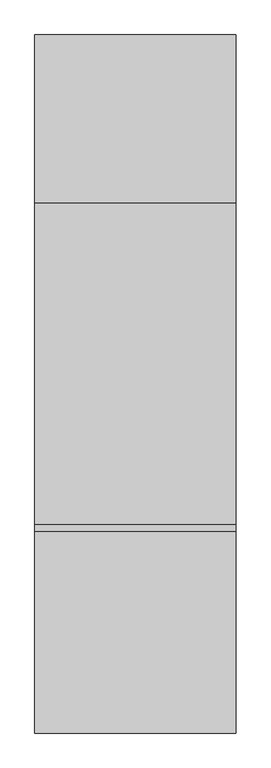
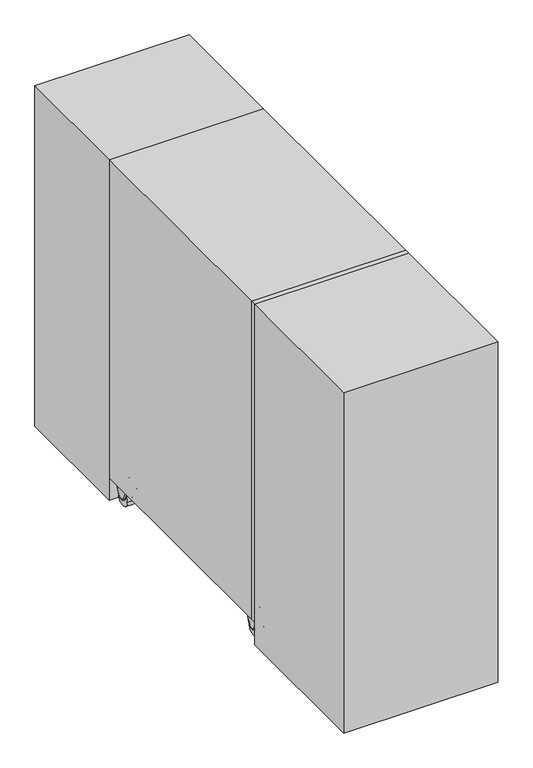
"""IFC4 building model written with IfcOpenShell, lengths in millimetres: proxy geometry, Трехфазный ИБП_ЛЕГИОН_СайберЭлектро : ЛЕГИОН-3Ф-120К."""

from ifc_helpers import new_model, si_unit, point, frame, origin, origin_with_axes, place, context, project, spatial, polyline, circle_curve, ellipse_curve, trimmed, outline, extrude, source, transform, mapped, element, save
from ifc_brep_helpers import plane_surface, cylinder_surface, revolved_surface, advanced_brep


def electrical_equipment_faf3a0b3(model_context):
    return source(origin(), model_context, "Body", "SolidModel", [
        advanced_brep(
        [(282.5584286, -22.026834, 73.0926887), (282.5584286, -31.2318826, 87.0), (282.5584286, -68.7681174, 87.0), (282.5584286, -77.973166, 73.0926887), (282.5584286, -63.8075728, 39.7206426), (282.5584286, -36.1924272, 39.7206426), (237.4415714, -31.2318826, 87.0), (237.4415714, -22.026834, 73.0926887), (237.4415714, -36.1924272, 39.7206426), (237.4415714, -63.8075728, 39.7206426), (237.4415714, -77.973166, 73.0926887), (237.4415714, -68.7681174, 87.0), (277.5584286, -31.2318826, 92.0), (242.4415641, -31.2318826, 92.0), (242.4415714, -68.7681174, 92.0), (277.5584286, -68.7681174, 92.0), (242.4415714, -82.5756902, 71.1390331), (277.5584286, -82.5756902, 71.1390331), (275.0, -73.1912444, 49.0306642), (275.0, -68.4100971, 37.7669869), (277.5584286, -68.4100971, 37.7669869), (242.4415714, -68.4100971, 37.7669869), (245.0, -68.4100971, 37.7669869), (245.0, -73.1912444, 49.0306642), (275.0, -31.5899029, 37.7669869), (277.5584286, -31.5899029, 37.7669869), (245.0, -31.5899029, 37.7669869), (242.4415714, -31.5899029, 37.7669869), (275.0, -26.8087556, 49.0306642), (245.0, -26.8087556, 49.0306642), (242.4415714, -17.4243098, 71.1390331), (277.5584286, -17.4243098, 71.1390331), (275.0, -80.0, 30.0), (275.0, -20.0, 30.0), (245.0, -20.0, 30.0), (245.0, -80.0, 30.0)],
        [
            (0, 1, circle_curve(frame((282.5584286, -31.2318826, 77.0), z_axis=(1.0, 0.0, 0.0), x_axis=(0.0, 0.0, 1.0)), 10.0)),
            (1, 2),
            (2, 3, circle_curve(frame((282.5584286, -68.7681174, 77.0), z_axis=(1.0, 0.0, 0.0), x_axis=(0.0, -0.9205048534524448, -0.3907311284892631)), 10.0)),
            (3, 4),
            (4, 5, circle_curve(frame((282.5584286, -50.0, 45.5816095), z_axis=(1.0, 0.0, 0.0), x_axis=(0.0, 0.9205048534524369, -0.3907311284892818)), 15.0)),
            (5, 0),
            (6, 7, circle_curve(frame((237.4415714, -31.2318826, 77.0), z_axis=(-1.0, 0.0, 0.0), x_axis=(0.0, 0.0, 1.0)), 10.0)),
            (7, 8),
            (8, 9, circle_curve(frame((237.4415714, -50.0, 45.5816095), z_axis=(-1.0, 0.0, 0.0), x_axis=(0.0, 0.9205048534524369, -0.3907311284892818)), 15.0)),
            (9, 10),
            (10, 11, circle_curve(frame((237.4415714, -68.7681174, 77.0), z_axis=(-1.0, 0.0, 0.0), x_axis=(0.0, -0.9205048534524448, -0.3907311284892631)), 10.0)),
            (11, 6),
            (12, 13),
            (13, 14),
            (14, 15),
            (15, 12),
            (14, 16, circle_curve(frame((242.4415714, -68.7681174, 77.0), z_axis=(1.0, 0.0, 0.0), x_axis=(0.0, 1.0, 0.0)), 15.0)),
            (16, 17),
            (17, 15, circle_curve(frame((277.5584286, -68.7681174, 77.0), z_axis=(-1.0, 0.0, 0.0), x_axis=(0.0, 1.0, 0.0)), 15.0)),
            (18, 19),
            (19, 20),
            (20, 17),
            (16, 21),
            (21, 22),
            (22, 23),
            (23, 18),
            (19, 24, circle_curve(frame((275.0, -50.0, 45.5816095), z_axis=(1.0, 0.0, 0.0), x_axis=(0.0, 1.0, 0.0)), 20.0)),
            (24, 25),
            (25, 20, circle_curve(frame((277.5584286, -50.0, 45.5816095), z_axis=(-1.0, 0.0, 0.0), x_axis=(0.0, 1.0, 0.0)), 20.0)),
            (26, 22, circle_curve(frame((245.0, -50.0, 45.5816095), z_axis=(-1.0, 0.0, 0.0), x_axis=(0.0, 1.0, 0.0)), 20.0)),
            (21, 27, circle_curve(frame((242.4415714, -50.0, 45.5816095), z_axis=(1.0, 0.0, 0.0), x_axis=(0.0, 1.0, 0.0)), 20.0)),
            (27, 26),
            (24, 28),
            (28, 29),
            (29, 26),
            (27, 30),
            (30, 31),
            (31, 25),
            (12, 31, circle_curve(frame((277.5584286, -31.2318826, 77.0), z_axis=(-1.0, 0.0, 0.0), x_axis=(0.0, 1.0, 0.0)), 15.0)),
            (30, 13, circle_curve(frame((242.4415714, -31.2318826, 77.0), z_axis=(1.0, 0.0, 0.0), x_axis=(0.0, 1.0, 0.0)), 15.0)),
            (32, 33, circle_curve(frame((275.0, -50.0, 30.0), z_axis=(1.0, 0.0, 0.0), x_axis=(0.0, -1.0, 0.0)), 30.0)),
            (33, 28, circle_curve(frame((275.0, -50.0, 30.0), z_axis=(1.0, 0.0, 0.0), x_axis=(0.0, -1.0, 0.0)), 30.0)),
            (18, 32, circle_curve(frame((275.0, -50.0, 30.0), z_axis=(1.0, 0.0, 0.0), x_axis=(0.0, -1.0, 0.0)), 30.0)),
            (34, 35, circle_curve(frame((245.0, -50.0, 30.0), z_axis=(-1.0, 0.0, 0.0), x_axis=(0.0, -1.0, 0.0)), 30.0)),
            (35, 23, circle_curve(frame((245.0, -50.0, 30.0), z_axis=(-1.0, 0.0, 0.0), x_axis=(0.0, -1.0, 0.0)), 30.0)),
            (29, 34, circle_curve(frame((245.0, -50.0, 30.0), z_axis=(-1.0, 0.0, 0.0), x_axis=(0.0, -1.0, 0.0)), 30.0)),
            (33, 34),
            (35, 32),
            (30, 7, circle_curve(frame((242.4415714, -22.026834, 73.0926887), z_axis=(0.0, 0.3907311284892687, 0.9205048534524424), x_axis=(-1.0, 0.0, 0.0)), 5.0)),
            (6, 13, circle_curve(frame((242.4415714, -31.2318826, 87.0), z_axis=(0.0, 1.0, 0.0), x_axis=(-1.0, 0.0, 0.0)), 5.0)),
            (0, 31, circle_curve(frame((277.5584286, -22.026834, 73.0926887), z_axis=(0.0, 0.3907311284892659, 0.9205048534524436), x_axis=(-1.0, 0.0, 0.0)), 5.0)),
            (12, 1, circle_curve(frame((277.5584286, -31.2318826, 87.0), z_axis=(0.0, 1.0, 0.0), x_axis=(-1.0, 0.0, 0.0)), 5.0)),
            (27, 8, circle_curve(frame((242.4415714, -36.1924272, 39.7206426), z_axis=(0.0, 0.3907311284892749, 0.9205048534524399), x_axis=(-1.0, 0.0, 0.0)), 5.0)),
            (5, 25, circle_curve(frame((277.5584286, -36.1924272, 39.7206426), z_axis=(0.0, 0.3907311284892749, 0.9205048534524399), x_axis=(-1.0, 0.0, 0.0)), 5.0)),
            (21, 9, circle_curve(frame((242.4415714, -63.8075728, 39.7206426), z_axis=(0.0, 0.39073112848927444, -0.9205048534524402), x_axis=(-1.0, 0.0, 0.0)), 5.0)),
            (4, 20, circle_curve(frame((277.5584286, -63.8075728, 39.7206426), z_axis=(0.0, 0.39073112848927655, -0.9205048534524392), x_axis=(-1.0, 0.0, 0.0)), 5.0)),
            (16, 10, circle_curve(frame((242.4415714, -77.973166, 73.0926887), z_axis=(0.0, 0.39073112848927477, -0.92050485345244), x_axis=(-1.0, 0.0, 0.0)), 5.0)),
            (3, 17, circle_curve(frame((277.5584286, -77.973166, 73.0926887), z_axis=(0.0, 0.39073112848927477, -0.92050485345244), x_axis=(-1.0, 0.0, 0.0)), 5.0)),
            (14, 11, circle_curve(frame((242.4415714, -68.7681174, 87.0), z_axis=(0.0, -1.0, 0.0), x_axis=(-1.0, 0.0, 0.0)), 5.0)),
            (2, 15, circle_curve(frame((277.5584286, -68.7681174, 87.0), z_axis=(0.0, -1.0, 0.0), x_axis=(-1.0, 0.0, 0.0)), 5.0)),
        ],
        [
            plane_surface(frame((282.5584286, -50.0, 92.0), z_axis=(1.0, 0.0, 0.0), x_axis=(0.0, -1.0, 0.0))),
            plane_surface(frame((237.4415714, -50.0, 92.0), z_axis=(-1.0, 0.0, 0.0), x_axis=(0.0, 1.0, 0.0))),
            plane_surface(frame((282.5584286, -31.2318826, 92.0), z_axis=(0.0, 0.0, 1.0), x_axis=(-1.0, 0.0, 0.0))),
            cylinder_surface(frame((237.4415714, -68.7681174, 77.0), z_axis=(1.0, 0.0, 0.0), x_axis=(0.0, 1.0, 0.0)), 15.0),
            plane_surface(frame((282.5584286, -82.5756902, 71.1390331), z_axis=(0.0, -0.9205048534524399, -0.39073112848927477), x_axis=(-1.0, 0.0, 0.0))),
            cylinder_surface(frame((237.4415714, -50.0, 45.5816095), z_axis=(1.0, 0.0, 0.0), x_axis=(0.0, 1.0, 0.0)), 20.0),
            plane_surface(frame((282.5584286, -31.5899029, 37.7669869), z_axis=(0.0, 0.9205048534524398, -0.3907311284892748), x_axis=(-1.0, 0.0, 0.0))),
            cylinder_surface(frame((237.4415714, -31.2318826, 77.0), z_axis=(1.0, 0.0, 0.0), x_axis=(0.0, 1.0, 0.0)), 15.0),
            plane_surface(frame((275.0, -80.0, 30.0), z_axis=(1.0, 0.0, 0.0), x_axis=(0.0, 0.0, -1.0))),
            plane_surface(frame((245.0, -80.0, 30.0), z_axis=(-1.0, 0.0, 0.0), x_axis=(0.0, 0.0, 1.0))),
            cylinder_surface(frame((245.0, -50.0, 30.0), z_axis=(1.0, 0.0, 0.0), x_axis=(0.0, -1.0, 0.0)), 30.0),
            revolved_surface(trimmed(ellipse_curve(frame((242.4415714, -31.2318826, 87.0), z_axis=(0.0, -1.0, 0.0), x_axis=(-1.0, 0.0, 0.0)), 5.0, 5.0), [point((242.4415714, -31.2318826, 92.0))], [point((237.4415714, -31.2318826, 87.0))], True, "CARTESIAN"), (237.4415714, -31.2318826, 77.0), (-1.0, 0.0, 0.0)),
            revolved_surface(trimmed(ellipse_curve(frame((277.5584286, -31.2318826, 87.0), z_axis=(0.0, -1.0, 0.0), x_axis=(-1.0, 0.0, 0.0)), 5.0, 5.0), [point((282.5584286, -31.2318826, 87.0))], [point((277.5584286, -31.2318826, 92.0))], True, "CARTESIAN"), (237.4415714, -31.2318826, 77.0), (-1.0, 0.0, 0.0)),
            cylinder_surface(frame((242.4415714, -22.026834, 73.0926887), z_axis=(0.0, -0.3907311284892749, -0.9205048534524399), x_axis=(-1.0, 0.0, 0.0)), 5.0),
            cylinder_surface(frame((277.5584286, -22.026834, 73.0926887), z_axis=(0.0, -0.3907311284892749, -0.9205048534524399), x_axis=(-1.0, 0.0, 0.0)), 5.0),
            revolved_surface(trimmed(ellipse_curve(frame((242.4415714, -36.1924272, 39.7206426), z_axis=(0.0, 0.39073112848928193, 0.9205048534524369), x_axis=(-1.0, 0.0, 0.0)), 5.0, 5.0), [point((242.4415714, -31.5899029, 37.7669869))], [point((237.4415714, -36.1924272, 39.7206426))], True, "CARTESIAN"), (237.4415714, -50.0, 45.5816095), (-1.0, 0.0, 0.0)),
            revolved_surface(trimmed(ellipse_curve(frame((277.5584286, -36.1924272, 39.7206426), z_axis=(0.0, 0.39073112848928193, 0.9205048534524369), x_axis=(-1.0, 0.0, 0.0)), 5.0, 5.0), [point((282.5584286, -36.1924272, 39.7206426))], [point((277.5584286, -31.5899029, 37.7669869))], True, "CARTESIAN"), (237.4415714, -50.0, 45.5816095), (-1.0, 0.0, 0.0)),
            cylinder_surface(frame((242.4415714, -63.8075728, 39.7206426), z_axis=(0.0, -0.39073112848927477, 0.92050485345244), x_axis=(-1.0, 0.0, 0.0)), 5.0),
            cylinder_surface(frame((277.5584286, -63.8075728, 39.7206426), z_axis=(0.0, -0.39073112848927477, 0.92050485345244), x_axis=(-1.0, 0.0, 0.0)), 5.0),
            revolved_surface(trimmed(ellipse_curve(frame((242.4415714, -77.973166, 73.0926887), z_axis=(0.0, 0.39073112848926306, -0.9205048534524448), x_axis=(-1.0, 0.0, 0.0)), 5.0, 5.0), [point((242.4415714, -82.5756902, 71.1390331))], [point((237.4415714, -77.973166, 73.0926887))], True, "CARTESIAN"), (237.4415714, -68.7681174, 77.0), (-1.0, 0.0, 0.0)),
            revolved_surface(trimmed(ellipse_curve(frame((277.5584286, -77.973166, 73.0926887), z_axis=(0.0, 0.39073112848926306, -0.9205048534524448), x_axis=(-1.0, 0.0, 0.0)), 5.0, 5.0), [point((282.5584286, -77.973166, 73.0926887))], [point((277.5584286, -82.5756902, 71.1390331))], True, "CARTESIAN"), (237.4415714, -68.7681174, 77.0), (-1.0, 0.0, 0.0)),
            cylinder_surface(frame((242.4415714, -68.7681174, 87.0), z_axis=(0.0, 1.0, 0.0), x_axis=(-1.0, 0.0, 0.0)), 5.0),
            cylinder_surface(frame((277.5584286, -68.7681174, 87.0), z_axis=(0.0, 1.0, 0.0), x_axis=(-1.0, 0.0, 0.0)), 5.0),
        ],
        [
            (0, [[1, 2, 3, 4, 5, 6]]),
            (1, [[7, 8, 9, 10, 11, 12]]),
            (2, [[13, 14, 15, 16]]),
            (3, [[-15, 17, 18, 19]]),
            (4, [[20, 21, 22, -18, 23, 24, 25, 26]]),
            (5, [[27, 28, 29, -21]]),
            (5, [[30, -24, 31, 32]]),
            (6, [[33, 34, 35, -32, 36, 37, 38, -28]]),
            (7, [[-13, 39, -37, 40]]),
            (8, [[41, 42, -33, -27, -20, 43]]),
            (9, [[44, 45, -25, -30, -35, 46]]),
            (10, [[47, -46, -34, -42]]),
            (10, [[48, -43, -26, -45]]),
            (10, [[-41, -48, -44, -47]]),
            (11, [[49, -7, 50, -40]]),
            (12, [[51, -39, 52, -1]]),
            (13, [[-49, -36, 53, -8]]),
            (14, [[-51, -6, 54, -38]]),
            (15, [[-53, -31, 55, -9]]),
            (16, [[-54, -5, 56, -29]]),
            (17, [[-55, -23, 57, -10]]),
            (18, [[-56, -4, 58, -22]]),
            (19, [[-57, -17, 59, -11]]),
            (20, [[-58, -3, 60, -19]]),
            (21, [[-50, -12, -59, -14]]),
            (22, [[-52, -16, -60, -2]]),
        ],
    ),
        advanced_brep(
        [(-237.4415714, -22.026834, 73.0926887), (-237.4415714, -31.2318826, 87.0), (-237.4415714, -68.7681174, 87.0), (-237.4415714, -77.973166, 73.0926887), (-237.4415714, -63.8075728, 39.7206426), (-237.4415714, -36.1924272, 39.7206426), (-282.5584286, -31.2318826, 87.0), (-282.5584286, -22.026834, 73.0926887), (-282.5584286, -36.1924272, 39.7206426), (-282.5584286, -63.8075728, 39.7206426), (-282.5584286, -77.973166, 73.0926887), (-282.5584286, -68.7681174, 87.0), (-242.4415714, -31.2318826, 92.0), (-277.5584359, -31.2318826, 92.0), (-277.5584286, -68.7681174, 92.0), (-242.4415714, -68.7681174, 92.0), (-277.5584286, -82.5756902, 71.1390331), (-242.4415714, -82.5756902, 71.1390331), (-245.0, -73.1912444, 49.0306642), (-245.0, -68.4100971, 37.7669869), (-242.4415714, -68.4100971, 37.7669869), (-277.5584286, -68.4100971, 37.7669869), (-275.0, -68.4100971, 37.7669869), (-275.0, -73.1912444, 49.0306642), (-245.0, -31.5899029, 37.7669869), (-242.4415714, -31.5899029, 37.7669869), (-275.0, -31.5899029, 37.7669869), (-277.5584286, -31.5899029, 37.7669869), (-245.0, -26.8087556, 49.0306642), (-275.0, -26.8087556, 49.0306642), (-277.5584286, -17.4243098, 71.1390331), (-242.4415714, -17.4243098, 71.1390331), (-245.0, -80.0, 30.0), (-245.0, -20.0, 30.0), (-275.0, -20.0, 30.0), (-275.0, -80.0, 30.0)],
        [
            (0, 1, circle_curve(frame((-237.4415714, -31.2318826, 77.0), z_axis=(1.0, 0.0, 0.0), x_axis=(0.0, 0.0, 1.0)), 10.0)),
            (1, 2),
            (2, 3, circle_curve(frame((-237.4415714, -68.7681174, 77.0), z_axis=(1.0, 0.0, 0.0), x_axis=(0.0, -0.9205048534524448, -0.3907311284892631)), 10.0)),
            (3, 4),
            (4, 5, circle_curve(frame((-237.4415714, -50.0, 45.5816095), z_axis=(1.0, 0.0, 0.0), x_axis=(0.0, 0.9205048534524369, -0.3907311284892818)), 15.0)),
            (5, 0),
            (6, 7, circle_curve(frame((-282.5584286, -31.2318826, 77.0), z_axis=(-1.0, 0.0, 0.0), x_axis=(0.0, 0.0, 1.0)), 10.0)),
            (7, 8),
            (8, 9, circle_curve(frame((-282.5584286, -50.0, 45.5816095), z_axis=(-1.0, 0.0, 0.0), x_axis=(0.0, 0.9205048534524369, -0.3907311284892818)), 15.0)),
            (9, 10),
            (10, 11, circle_curve(frame((-282.5584286, -68.7681174, 77.0), z_axis=(-1.0, 0.0, 0.0), x_axis=(0.0, -0.9205048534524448, -0.3907311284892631)), 10.0)),
            (11, 6),
            (12, 13),
            (13, 14),
            (14, 15),
            (15, 12),
            (14, 16, circle_curve(frame((-277.5584286, -68.7681174, 77.0), z_axis=(1.0, 0.0, 0.0), x_axis=(0.0, 1.0, 0.0)), 15.0)),
            (16, 17),
            (17, 15, circle_curve(frame((-242.4415714, -68.7681174, 77.0), z_axis=(-1.0, 0.0, 0.0), x_axis=(0.0, 1.0, 0.0)), 15.0)),
            (18, 19),
            (19, 20),
            (20, 17),
            (16, 21),
            (21, 22),
            (22, 23),
            (23, 18),
            (19, 24, circle_curve(frame((-245.0, -50.0, 45.5816095), z_axis=(1.0, 0.0, 0.0), x_axis=(0.0, 1.0, 0.0)), 20.0)),
            (24, 25),
            (25, 20, circle_curve(frame((-242.4415714, -50.0, 45.5816095), z_axis=(-1.0, 0.0, 0.0), x_axis=(0.0, 1.0, 0.0)), 20.0)),
            (26, 22, circle_curve(frame((-275.0, -50.0, 45.5816095), z_axis=(-1.0, 0.0, 0.0), x_axis=(0.0, 1.0, 0.0)), 20.0)),
            (21, 27, circle_curve(frame((-277.5584286, -50.0, 45.5816095), z_axis=(1.0, 0.0, 0.0), x_axis=(0.0, 1.0, 0.0)), 20.0)),
            (27, 26),
            (24, 28),
            (28, 29),
            (29, 26),
            (27, 30),
            (30, 31),
            (31, 25),
            (12, 31, circle_curve(frame((-242.4415714, -31.2318826, 77.0), z_axis=(-1.0, 0.0, 0.0), x_axis=(0.0, 1.0, 0.0)), 15.0)),
            (30, 13, circle_curve(frame((-277.5584286, -31.2318826, 77.0), z_axis=(1.0, 0.0, 0.0), x_axis=(0.0, 1.0, 0.0)), 15.0)),
            (32, 33, circle_curve(frame((-245.0, -50.0, 30.0), z_axis=(1.0, 0.0, 0.0), x_axis=(0.0, -1.0, 0.0)), 30.0)),
            (33, 28, circle_curve(frame((-245.0, -50.0, 30.0), z_axis=(1.0, 0.0, 0.0), x_axis=(0.0, -1.0, 0.0)), 30.0)),
            (18, 32, circle_curve(frame((-245.0, -50.0, 30.0), z_axis=(1.0, 0.0, 0.0), x_axis=(0.0, -1.0, 0.0)), 30.0)),
            (34, 35, circle_curve(frame((-275.0, -50.0, 30.0), z_axis=(-1.0, 0.0, 0.0), x_axis=(0.0, -1.0, 0.0)), 30.0)),
            (35, 23, circle_curve(frame((-275.0, -50.0, 30.0), z_axis=(-1.0, 0.0, 0.0), x_axis=(0.0, -1.0, 0.0)), 30.0)),
            (29, 34, circle_curve(frame((-275.0, -50.0, 30.0), z_axis=(-1.0, 0.0, 0.0), x_axis=(0.0, -1.0, 0.0)), 30.0)),
            (33, 34),
            (35, 32),
            (30, 7, circle_curve(frame((-277.5584286, -22.026834, 73.0926887), z_axis=(0.0, 0.3907311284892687, 0.9205048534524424), x_axis=(-1.0, 0.0, 0.0)), 5.0)),
            (6, 13, circle_curve(frame((-277.5584286, -31.2318826, 87.0), z_axis=(0.0, 1.0, 0.0), x_axis=(-1.0, 0.0, 0.0)), 5.0)),
            (0, 31, circle_curve(frame((-242.4415714, -22.026834, 73.0926887), z_axis=(0.0, 0.3907311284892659, 0.9205048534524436), x_axis=(-1.0, 0.0, 0.0)), 5.0)),
            (12, 1, circle_curve(frame((-242.4415714, -31.2318826, 87.0), z_axis=(0.0, 1.0, 0.0), x_axis=(-1.0, 0.0, 0.0)), 5.0)),
            (27, 8, circle_curve(frame((-277.5584286, -36.1924272, 39.7206426), z_axis=(0.0, 0.3907311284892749, 0.9205048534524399), x_axis=(-1.0, 0.0, 0.0)), 5.0)),
            (5, 25, circle_curve(frame((-242.4415714, -36.1924272, 39.7206426), z_axis=(0.0, 0.3907311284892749, 0.9205048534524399), x_axis=(-1.0, 0.0, 0.0)), 5.0)),
            (21, 9, circle_curve(frame((-277.5584286, -63.8075728, 39.7206426), z_axis=(0.0, 0.39073112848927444, -0.9205048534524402), x_axis=(-1.0, 0.0, 0.0)), 5.0)),
            (4, 20, circle_curve(frame((-242.4415714, -63.8075728, 39.7206426), z_axis=(0.0, 0.39073112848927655, -0.9205048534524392), x_axis=(-1.0, 0.0, 0.0)), 5.0)),
            (16, 10, circle_curve(frame((-277.5584286, -77.973166, 73.0926887), z_axis=(0.0, 0.39073112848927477, -0.92050485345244), x_axis=(-1.0, 0.0, 0.0)), 5.0)),
            (3, 17, circle_curve(frame((-242.4415714, -77.973166, 73.0926887), z_axis=(0.0, 0.39073112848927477, -0.92050485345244), x_axis=(-1.0, 0.0, 0.0)), 5.0)),
            (14, 11, circle_curve(frame((-277.5584286, -68.7681174, 87.0), z_axis=(0.0, -1.0, 0.0), x_axis=(-1.0, 0.0, 0.0)), 5.0)),
            (2, 15, circle_curve(frame((-242.4415714, -68.7681174, 87.0), z_axis=(0.0, -1.0, 0.0), x_axis=(-1.0, 0.0, 0.0)), 5.0)),
        ],
        [
            plane_surface(frame((-237.4415714, -50.0, 92.0), z_axis=(1.0, 0.0, 0.0), x_axis=(0.0, -1.0, 0.0))),
            plane_surface(frame((-282.5584286, -50.0, 92.0), z_axis=(-1.0, 0.0, 0.0), x_axis=(0.0, 1.0, 0.0))),
            plane_surface(frame((-237.4415714, -31.2318826, 92.0), z_axis=(0.0, 0.0, 1.0), x_axis=(-1.0, 0.0, 0.0))),
            cylinder_surface(frame((-282.5584286, -68.7681174, 77.0), z_axis=(1.0, 0.0, 0.0), x_axis=(0.0, 1.0, 0.0)), 15.0),
            plane_surface(frame((-237.4415714, -82.5756902, 71.1390331), z_axis=(0.0, -0.9205048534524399, -0.39073112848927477), x_axis=(-1.0, 0.0, 0.0))),
            cylinder_surface(frame((-282.5584286, -50.0, 45.5816095), z_axis=(1.0, 0.0, 0.0), x_axis=(0.0, 1.0, 0.0)), 20.0),
            plane_surface(frame((-237.4415714, -31.5899029, 37.7669869), z_axis=(0.0, 0.9205048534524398, -0.3907311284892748), x_axis=(-1.0, 0.0, 0.0))),
            cylinder_surface(frame((-282.5584286, -31.2318826, 77.0), z_axis=(1.0, 0.0, 0.0), x_axis=(0.0, 1.0, 0.0)), 15.0),
            plane_surface(frame((-245.0, -80.0, 30.0), z_axis=(1.0, 0.0, 0.0), x_axis=(0.0, 0.0, -1.0))),
            plane_surface(frame((-275.0, -80.0, 30.0), z_axis=(-1.0, 0.0, 0.0), x_axis=(0.0, 0.0, 1.0))),
            cylinder_surface(frame((-275.0, -50.0, 30.0), z_axis=(1.0, 0.0, 0.0), x_axis=(0.0, -1.0, 0.0)), 30.0),
            revolved_surface(trimmed(ellipse_curve(frame((-277.5584286, -31.2318826, 87.0), z_axis=(0.0, -1.0, 0.0), x_axis=(-1.0, 0.0, 0.0)), 5.0, 5.0), [point((-277.5584286, -31.2318826, 92.0))], [point((-282.5584286, -31.2318826, 87.0))], True, "CARTESIAN"), (-282.5584286, -31.2318826, 77.0), (-1.0, 0.0, 0.0)),
            revolved_surface(trimmed(ellipse_curve(frame((-242.4415714, -31.2318826, 87.0), z_axis=(0.0, -1.0, 0.0), x_axis=(-1.0, 0.0, 0.0)), 5.0, 5.0), [point((-237.4415714, -31.2318826, 87.0))], [point((-242.4415714, -31.2318826, 92.0))], True, "CARTESIAN"), (-282.5584286, -31.2318826, 77.0), (-1.0, 0.0, 0.0)),
            cylinder_surface(frame((-277.5584286, -22.026834, 73.0926887), z_axis=(0.0, -0.3907311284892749, -0.9205048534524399), x_axis=(-1.0, 0.0, 0.0)), 5.0),
            cylinder_surface(frame((-242.4415714, -22.026834, 73.0926887), z_axis=(0.0, -0.3907311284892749, -0.9205048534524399), x_axis=(-1.0, 0.0, 0.0)), 5.0),
            revolved_surface(trimmed(ellipse_curve(frame((-277.5584286, -36.1924272, 39.7206426), z_axis=(0.0, 0.39073112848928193, 0.9205048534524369), x_axis=(-1.0, 0.0, 0.0)), 5.0, 5.0), [point((-277.5584286, -31.5899029, 37.7669869))], [point((-282.5584286, -36.1924272, 39.7206426))], True, "CARTESIAN"), (-282.5584286, -50.0, 45.5816095), (-1.0, 0.0, 0.0)),
            revolved_surface(trimmed(ellipse_curve(frame((-242.4415714, -36.1924272, 39.7206426), z_axis=(0.0, 0.39073112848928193, 0.9205048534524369), x_axis=(-1.0, 0.0, 0.0)), 5.0, 5.0), [point((-237.4415714, -36.1924272, 39.7206426))], [point((-242.4415714, -31.5899029, 37.7669869))], True, "CARTESIAN"), (-282.5584286, -50.0, 45.5816095), (-1.0, 0.0, 0.0)),
            cylinder_surface(frame((-277.5584286, -63.8075728, 39.7206426), z_axis=(0.0, -0.39073112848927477, 0.92050485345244), x_axis=(-1.0, 0.0, 0.0)), 5.0),
            cylinder_surface(frame((-242.4415714, -63.8075728, 39.7206426), z_axis=(0.0, -0.39073112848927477, 0.92050485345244), x_axis=(-1.0, 0.0, 0.0)), 5.0),
            revolved_surface(trimmed(ellipse_curve(frame((-277.5584286, -77.973166, 73.0926887), z_axis=(0.0, 0.39073112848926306, -0.9205048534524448), x_axis=(-1.0, 0.0, 0.0)), 5.0, 5.0), [point((-277.5584286, -82.5756902, 71.1390331))], [point((-282.5584286, -77.973166, 73.0926887))], True, "CARTESIAN"), (-282.5584286, -68.7681174, 77.0), (-1.0, 0.0, 0.0)),
            revolved_surface(trimmed(ellipse_curve(frame((-242.4415714, -77.973166, 73.0926887), z_axis=(0.0, 0.39073112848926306, -0.9205048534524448), x_axis=(-1.0, 0.0, 0.0)), 5.0, 5.0), [point((-237.4415714, -77.973166, 73.0926887))], [point((-242.4415714, -82.5756902, 71.1390331))], True, "CARTESIAN"), (-282.5584286, -68.7681174, 77.0), (-1.0, 0.0, 0.0)),
            cylinder_surface(frame((-277.5584286, -68.7681174, 87.0), z_axis=(0.0, 1.0, 0.0), x_axis=(-1.0, 0.0, 0.0)), 5.0),
            cylinder_surface(frame((-242.4415714, -68.7681174, 87.0), z_axis=(0.0, 1.0, 0.0), x_axis=(-1.0, 0.0, 0.0)), 5.0),
        ],
        [
            (0, [[1, 2, 3, 4, 5, 6]]),
            (1, [[7, 8, 9, 10, 11, 12]]),
            (2, [[13, 14, 15, 16]]),
            (3, [[-15, 17, 18, 19]]),
            (4, [[20, 21, 22, -18, 23, 24, 25, 26]]),
            (5, [[27, 28, 29, -21]]),
            (5, [[30, -24, 31, 32]]),
            (6, [[33, 34, 35, -32, 36, 37, 38, -28]]),
            (7, [[-13, 39, -37, 40]]),
            (8, [[41, 42, -33, -27, -20, 43]]),
            (9, [[44, 45, -25, -30, -35, 46]]),
            (10, [[47, -46, -34, -42]]),
            (10, [[48, -43, -26, -45]]),
            (10, [[-41, -48, -44, -47]]),
            (11, [[49, -7, 50, -40]]),
            (12, [[51, -39, 52, -1]]),
            (13, [[-49, -36, 53, -8]]),
            (14, [[-51, -6, 54, -38]]),
            (15, [[-53, -31, 55, -9]]),
            (16, [[-54, -5, 56, -29]]),
            (17, [[-55, -23, 57, -10]]),
            (18, [[-56, -4, 58, -22]]),
            (19, [[-57, -17, 59, -11]]),
            (20, [[-58, -3, 60, -19]]),
            (21, [[-50, -12, -59, -14]]),
            (22, [[-52, -16, -60, -2]]),
        ],
    ),
        advanced_brep(
        [(282.5584286, -902.026834, 73.0926887), (282.5584286, -911.2318826, 87.0), (282.5584286, -948.7681174, 87.0), (282.5584286, -957.973166, 73.0926887), (282.5584286, -943.8075728, 39.7206426), (282.5584286, -916.1924272, 39.7206426), (237.4415714, -911.2318826, 87.0), (237.4415714, -902.026834, 73.0926887), (237.4415714, -916.1924272, 39.7206426), (237.4415714, -943.8075728, 39.7206426), (237.4415714, -957.973166, 73.0926887), (237.4415714, -948.7681174, 87.0), (277.5584286, -911.2318826, 92.0), (242.4415641, -911.2318826, 92.0), (242.4415714, -948.7681174, 92.0), (277.5584286, -948.7681174, 92.0), (242.4415714, -962.5756902, 71.1390331), (277.5584286, -962.5756902, 71.1390331), (275.0, -953.1912444, 49.0306642), (275.0, -948.4100971, 37.7669869), (277.5584286, -948.4100971, 37.7669869), (242.4415714, -948.4100971, 37.7669869), (245.0, -948.4100971, 37.7669869), (245.0, -953.1912444, 49.0306642), (275.0, -911.5899029, 37.7669869), (277.5584286, -911.5899029, 37.7669869), (245.0, -911.5899029, 37.7669869), (242.4415714, -911.5899029, 37.7669869), (275.0, -906.8087556, 49.0306642), (245.0, -906.8087556, 49.0306642), (242.4415714, -897.4243098, 71.1390331), (277.5584286, -897.4243098, 71.1390331), (275.0, -960.0, 30.0), (275.0, -900.0, 30.0), (245.0, -900.0, 30.0), (245.0, -960.0, 30.0)],
        [
            (0, 1, circle_curve(frame((282.5584286, -911.2318826, 77.0), z_axis=(1.0, 0.0, 0.0), x_axis=(0.0, 0.0, 1.0)), 10.0)),
            (1, 2),
            (2, 3, circle_curve(frame((282.5584286, -948.7681174, 77.0), z_axis=(1.0, 0.0, 0.0), x_axis=(0.0, -0.9205048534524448, -0.3907311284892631)), 10.0)),
            (3, 4),
            (4, 5, circle_curve(frame((282.5584286, -930.0, 45.5816095), z_axis=(1.0, 0.0, 0.0), x_axis=(0.0, 0.9205048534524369, -0.3907311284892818)), 15.0)),
            (5, 0),
            (6, 7, circle_curve(frame((237.4415714, -911.2318826, 77.0), z_axis=(-1.0, 0.0, 0.0), x_axis=(0.0, 0.0, 1.0)), 10.0)),
            (7, 8),
            (8, 9, circle_curve(frame((237.4415714, -930.0, 45.5816095), z_axis=(-1.0, 0.0, 0.0), x_axis=(0.0, 0.9205048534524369, -0.3907311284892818)), 15.0)),
            (9, 10),
            (10, 11, circle_curve(frame((237.4415714, -948.7681174, 77.0), z_axis=(-1.0, 0.0, 0.0), x_axis=(0.0, -0.9205048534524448, -0.3907311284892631)), 10.0)),
            (11, 6),
            (12, 13),
            (13, 14),
            (14, 15),
            (15, 12),
            (14, 16, circle_curve(frame((242.4415714, -948.7681174, 77.0), z_axis=(1.0, 0.0, 0.0), x_axis=(0.0, 1.0, 0.0)), 15.0)),
            (16, 17),
            (17, 15, circle_curve(frame((277.5584286, -948.7681174, 77.0), z_axis=(-1.0, 0.0, 0.0), x_axis=(0.0, 1.0, 0.0)), 15.0)),
            (18, 19),
            (19, 20),
            (20, 17),
            (16, 21),
            (21, 22),
            (22, 23),
            (23, 18),
            (19, 24, circle_curve(frame((275.0, -930.0, 45.5816095), z_axis=(1.0, 0.0, 0.0), x_axis=(0.0, 1.0, 0.0)), 20.0)),
            (24, 25),
            (25, 20, circle_curve(frame((277.5584286, -930.0, 45.5816095), z_axis=(-1.0, 0.0, 0.0), x_axis=(0.0, 1.0, 0.0)), 20.0)),
            (26, 22, circle_curve(frame((245.0, -930.0, 45.5816095), z_axis=(-1.0, 0.0, 0.0), x_axis=(0.0, 1.0, 0.0)), 20.0)),
            (21, 27, circle_curve(frame((242.4415714, -930.0, 45.5816095), z_axis=(1.0, 0.0, 0.0), x_axis=(0.0, 1.0, 0.0)), 20.0)),
            (27, 26),
            (24, 28),
            (28, 29),
            (29, 26),
            (27, 30),
            (30, 31),
            (31, 25),
            (12, 31, circle_curve(frame((277.5584286, -911.2318826, 77.0), z_axis=(-1.0, 0.0, 0.0), x_axis=(0.0, 1.0, 0.0)), 15.0)),
            (30, 13, circle_curve(frame((242.4415714, -911.2318826, 77.0), z_axis=(1.0, 0.0, 0.0), x_axis=(0.0, 1.0, 0.0)), 15.0)),
            (32, 33, circle_curve(frame((275.0, -930.0, 30.0), z_axis=(1.0, 0.0, 0.0), x_axis=(0.0, -1.0, 0.0)), 30.0)),
            (33, 28, circle_curve(frame((275.0, -930.0, 30.0), z_axis=(1.0, 0.0, 0.0), x_axis=(0.0, -1.0, 0.0)), 30.0)),
            (18, 32, circle_curve(frame((275.0, -930.0, 30.0), z_axis=(1.0, 0.0, 0.0), x_axis=(0.0, -1.0, 0.0)), 30.0)),
            (34, 35, circle_curve(frame((245.0, -930.0, 30.0), z_axis=(-1.0, 0.0, 0.0), x_axis=(0.0, -1.0, 0.0)), 30.0)),
            (35, 23, circle_curve(frame((245.0, -930.0, 30.0), z_axis=(-1.0, 0.0, 0.0), x_axis=(0.0, -1.0, 0.0)), 30.0)),
            (29, 34, circle_curve(frame((245.0, -930.0, 30.0), z_axis=(-1.0, 0.0, 0.0), x_axis=(0.0, -1.0, 0.0)), 30.0)),
            (33, 34),
            (35, 32),
            (30, 7, circle_curve(frame((242.4415714, -902.026834, 73.0926887), z_axis=(0.0, 0.3907311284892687, 0.9205048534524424), x_axis=(-1.0, 0.0, 0.0)), 5.0)),
            (6, 13, circle_curve(frame((242.4415714, -911.2318826, 87.0), z_axis=(0.0, 1.0, 0.0), x_axis=(-1.0, 0.0, 0.0)), 5.0)),
            (0, 31, circle_curve(frame((277.5584286, -902.026834, 73.0926887), z_axis=(0.0, 0.3907311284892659, 0.9205048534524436), x_axis=(-1.0, 0.0, 0.0)), 5.0)),
            (12, 1, circle_curve(frame((277.5584286, -911.2318826, 87.0), z_axis=(0.0, 1.0, 0.0), x_axis=(-1.0, 0.0, 0.0)), 5.0)),
            (27, 8, circle_curve(frame((242.4415714, -916.1924272, 39.7206426), z_axis=(0.0, 0.3907311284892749, 0.9205048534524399), x_axis=(-1.0, 0.0, 0.0)), 5.0)),
            (5, 25, circle_curve(frame((277.5584286, -916.1924272, 39.7206426), z_axis=(0.0, 0.3907311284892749, 0.9205048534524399), x_axis=(-1.0, 0.0, 0.0)), 5.0)),
            (21, 9, circle_curve(frame((242.4415714, -943.8075728, 39.7206426), z_axis=(0.0, 0.39073112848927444, -0.9205048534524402), x_axis=(-1.0, 0.0, 0.0)), 5.0)),
            (4, 20, circle_curve(frame((277.5584286, -943.8075728, 39.7206426), z_axis=(0.0, 0.39073112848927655, -0.9205048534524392), x_axis=(-1.0, 0.0, 0.0)), 5.0)),
            (16, 10, circle_curve(frame((242.4415714, -957.973166, 73.0926887), z_axis=(0.0, 0.39073112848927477, -0.92050485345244), x_axis=(-1.0, 0.0, 0.0)), 5.0)),
            (3, 17, circle_curve(frame((277.5584286, -957.973166, 73.0926887), z_axis=(0.0, 0.39073112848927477, -0.92050485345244), x_axis=(-1.0, 0.0, 0.0)), 5.0)),
            (14, 11, circle_curve(frame((242.4415714, -948.7681174, 87.0), z_axis=(0.0, -1.0, 0.0), x_axis=(-1.0, 0.0, 0.0)), 5.0)),
            (2, 15, circle_curve(frame((277.5584286, -948.7681174, 87.0), z_axis=(0.0, -1.0, 0.0), x_axis=(-1.0, 0.0, 0.0)), 5.0)),
        ],
        [
            plane_surface(frame((282.5584286, -930.0, 92.0), z_axis=(1.0, 0.0, 0.0), x_axis=(0.0, -1.0, 0.0))),
            plane_surface(frame((237.4415714, -930.0, 92.0), z_axis=(-1.0, 0.0, 0.0), x_axis=(0.0, 1.0, 0.0))),
            plane_surface(frame((282.5584286, -911.2318826, 92.0), z_axis=(0.0, 0.0, 1.0), x_axis=(-1.0, 0.0, 0.0))),
            cylinder_surface(frame((237.4415714, -948.7681174, 77.0), z_axis=(1.0, 0.0, 0.0), x_axis=(0.0, 1.0, 0.0)), 15.0),
            plane_surface(frame((282.5584286, -962.5756902, 71.1390331), z_axis=(0.0, -0.9205048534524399, -0.39073112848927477), x_axis=(-1.0, 0.0, 0.0))),
            cylinder_surface(frame((237.4415714, -930.0, 45.5816095), z_axis=(1.0, 0.0, 0.0), x_axis=(0.0, 1.0, 0.0)), 20.0),
            plane_surface(frame((282.5584286, -911.5899029, 37.7669869), z_axis=(0.0, 0.9205048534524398, -0.3907311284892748), x_axis=(-1.0, 0.0, 0.0))),
            cylinder_surface(frame((237.4415714, -911.2318826, 77.0), z_axis=(1.0, 0.0, 0.0), x_axis=(0.0, 1.0, 0.0)), 15.0),
            plane_surface(frame((275.0, -960.0, 30.0), z_axis=(1.0, 0.0, 0.0), x_axis=(0.0, 0.0, -1.0))),
            plane_surface(frame((245.0, -960.0, 30.0), z_axis=(-1.0, 0.0, 0.0), x_axis=(0.0, 0.0, 1.0))),
            cylinder_surface(frame((245.0, -930.0, 30.0), z_axis=(1.0, 0.0, 0.0), x_axis=(0.0, -1.0, 0.0)), 30.0),
            revolved_surface(trimmed(ellipse_curve(frame((242.4415714, -911.2318826, 87.0), z_axis=(0.0, -1.0, 0.0), x_axis=(-1.0, 0.0, 0.0)), 5.0, 5.0), [point((242.4415714, -911.2318826, 92.0))], [point((237.4415714, -911.2318826, 87.0))], True, "CARTESIAN"), (237.4415714, -911.2318826, 77.0), (-1.0, 0.0, 0.0)),
            revolved_surface(trimmed(ellipse_curve(frame((277.5584286, -911.2318826, 87.0), z_axis=(0.0, -1.0, 0.0), x_axis=(-1.0, 0.0, 0.0)), 5.0, 5.0), [point((282.5584286, -911.2318826, 87.0))], [point((277.5584286, -911.2318826, 92.0))], True, "CARTESIAN"), (237.4415714, -911.2318826, 77.0), (-1.0, 0.0, 0.0)),
            cylinder_surface(frame((242.4415714, -902.026834, 73.0926887), z_axis=(0.0, -0.3907311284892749, -0.9205048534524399), x_axis=(-1.0, 0.0, 0.0)), 5.0),
            cylinder_surface(frame((277.5584286, -902.026834, 73.0926887), z_axis=(0.0, -0.3907311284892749, -0.9205048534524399), x_axis=(-1.0, 0.0, 0.0)), 5.0),
            revolved_surface(trimmed(ellipse_curve(frame((242.4415714, -916.1924272, 39.7206426), z_axis=(0.0, 0.39073112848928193, 0.9205048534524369), x_axis=(-1.0, 0.0, 0.0)), 5.0, 5.0), [point((242.4415714, -911.5899029, 37.7669869))], [point((237.4415714, -916.1924272, 39.7206426))], True, "CARTESIAN"), (237.4415714, -930.0, 45.5816095), (-1.0, 0.0, 0.0)),
            revolved_surface(trimmed(ellipse_curve(frame((277.5584286, -916.1924272, 39.7206426), z_axis=(0.0, 0.39073112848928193, 0.9205048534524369), x_axis=(-1.0, 0.0, 0.0)), 5.0, 5.0), [point((282.5584286, -916.1924272, 39.7206426))], [point((277.5584286, -911.5899029, 37.7669869))], True, "CARTESIAN"), (237.4415714, -930.0, 45.5816095), (-1.0, 0.0, 0.0)),
            cylinder_surface(frame((242.4415714, -943.8075728, 39.7206426), z_axis=(0.0, -0.39073112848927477, 0.92050485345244), x_axis=(-1.0, 0.0, 0.0)), 5.0),
            cylinder_surface(frame((277.5584286, -943.8075728, 39.7206426), z_axis=(0.0, -0.39073112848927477, 0.92050485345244), x_axis=(-1.0, 0.0, 0.0)), 5.0),
            revolved_surface(trimmed(ellipse_curve(frame((242.4415714, -957.973166, 73.0926887), z_axis=(0.0, 0.39073112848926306, -0.9205048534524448), x_axis=(-1.0, 0.0, 0.0)), 5.0, 5.0), [point((242.4415714, -962.5756902, 71.1390331))], [point((237.4415714, -957.973166, 73.0926887))], True, "CARTESIAN"), (237.4415714, -948.7681174, 77.0), (-1.0, 0.0, 0.0)),
            revolved_surface(trimmed(ellipse_curve(frame((277.5584286, -957.973166, 73.0926887), z_axis=(0.0, 0.39073112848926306, -0.9205048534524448), x_axis=(-1.0, 0.0, 0.0)), 5.0, 5.0), [point((282.5584286, -957.973166, 73.0926887))], [point((277.5584286, -962.5756902, 71.1390331))], True, "CARTESIAN"), (237.4415714, -948.7681174, 77.0), (-1.0, 0.0, 0.0)),
            cylinder_surface(frame((242.4415714, -948.7681174, 87.0), z_axis=(0.0, 1.0, 0.0), x_axis=(-1.0, 0.0, 0.0)), 5.0),
            cylinder_surface(frame((277.5584286, -948.7681174, 87.0), z_axis=(0.0, 1.0, 0.0), x_axis=(-1.0, 0.0, 0.0)), 5.0),
        ],
        [
            (0, [[1, 2, 3, 4, 5, 6]]),
            (1, [[7, 8, 9, 10, 11, 12]]),
            (2, [[13, 14, 15, 16]]),
            (3, [[-15, 17, 18, 19]]),
            (4, [[20, 21, 22, -18, 23, 24, 25, 26]]),
            (5, [[27, 28, 29, -21]]),
            (5, [[30, -24, 31, 32]]),
            (6, [[33, 34, 35, -32, 36, 37, 38, -28]]),
            (7, [[-13, 39, -37, 40]]),
            (8, [[41, 42, -33, -27, -20, 43]]),
            (9, [[44, 45, -25, -30, -35, 46]]),
            (10, [[47, -46, -34, -42]]),
            (10, [[48, -43, -26, -45]]),
            (10, [[-41, -48, -44, -47]]),
            (11, [[49, -7, 50, -40]]),
            (12, [[51, -39, 52, -1]]),
            (13, [[-49, -36, 53, -8]]),
            (14, [[-51, -6, 54, -38]]),
            (15, [[-53, -31, 55, -9]]),
            (16, [[-54, -5, 56, -29]]),
            (17, [[-55, -23, 57, -10]]),
            (18, [[-56, -4, 58, -22]]),
            (19, [[-57, -17, 59, -11]]),
            (20, [[-58, -3, 60, -19]]),
            (21, [[-50, -12, -59, -14]]),
            (22, [[-52, -16, -60, -2]]),
        ],
    ),
        advanced_brep(
        [(-237.4415714, -902.026834, 73.0926887), (-237.4415714, -911.2318826, 87.0), (-237.4415714, -948.7681174, 87.0), (-237.4415714, -957.973166, 73.0926887), (-237.4415714, -943.8075728, 39.7206426), (-237.4415714, -916.1924272, 39.7206426), (-282.5584286, -911.2318826, 87.0), (-282.5584286, -902.026834, 73.0926887), (-282.5584286, -916.1924272, 39.7206426), (-282.5584286, -943.8075728, 39.7206426), (-282.5584286, -957.973166, 73.0926887), (-282.5584286, -948.7681174, 87.0), (-242.4415714, -911.2318826, 92.0), (-277.5584359, -911.2318826, 92.0), (-277.5584286, -948.7681174, 92.0), (-242.4415714, -948.7681174, 92.0), (-277.5584286, -962.5756902, 71.1390331), (-242.4415714, -962.5756902, 71.1390331), (-245.0, -953.1912444, 49.0306642), (-245.0, -948.4100971, 37.7669869), (-242.4415714, -948.4100971, 37.7669869), (-277.5584286, -948.4100971, 37.7669869), (-275.0, -948.4100971, 37.7669869), (-275.0, -953.1912444, 49.0306642), (-245.0, -911.5899029, 37.7669869), (-242.4415714, -911.5899029, 37.7669869), (-275.0, -911.5899029, 37.7669869), (-277.5584286, -911.5899029, 37.7669869), (-245.0, -906.8087556, 49.0306642), (-275.0, -906.8087556, 49.0306642), (-277.5584286, -897.4243098, 71.1390331), (-242.4415714, -897.4243098, 71.1390331), (-245.0, -960.0, 30.0), (-245.0, -900.0, 30.0), (-275.0, -900.0, 30.0), (-275.0, -960.0, 30.0)],
        [
            (0, 1, circle_curve(frame((-237.4415714, -911.2318826, 77.0), z_axis=(1.0, 0.0, 0.0), x_axis=(0.0, 0.0, 1.0)), 10.0)),
            (1, 2),
            (2, 3, circle_curve(frame((-237.4415714, -948.7681174, 77.0), z_axis=(1.0, 0.0, 0.0), x_axis=(0.0, -0.9205048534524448, -0.3907311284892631)), 10.0)),
            (3, 4),
            (4, 5, circle_curve(frame((-237.4415714, -930.0, 45.5816095), z_axis=(1.0, 0.0, 0.0), x_axis=(0.0, 0.9205048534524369, -0.3907311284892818)), 15.0)),
            (5, 0),
            (6, 7, circle_curve(frame((-282.5584286, -911.2318826, 77.0), z_axis=(-1.0, 0.0, 0.0), x_axis=(0.0, 0.0, 1.0)), 10.0)),
            (7, 8),
            (8, 9, circle_curve(frame((-282.5584286, -930.0, 45.5816095), z_axis=(-1.0, 0.0, 0.0), x_axis=(0.0, 0.9205048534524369, -0.3907311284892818)), 15.0)),
            (9, 10),
            (10, 11, circle_curve(frame((-282.5584286, -948.7681174, 77.0), z_axis=(-1.0, 0.0, 0.0), x_axis=(0.0, -0.9205048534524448, -0.3907311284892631)), 10.0)),
            (11, 6),
            (12, 13),
            (13, 14),
            (14, 15),
            (15, 12),
            (14, 16, circle_curve(frame((-277.5584286, -948.7681174, 77.0), z_axis=(1.0, 0.0, 0.0), x_axis=(0.0, 1.0, 0.0)), 15.0)),
            (16, 17),
            (17, 15, circle_curve(frame((-242.4415714, -948.7681174, 77.0), z_axis=(-1.0, 0.0, 0.0), x_axis=(0.0, 1.0, 0.0)), 15.0)),
            (18, 19),
            (19, 20),
            (20, 17),
            (16, 21),
            (21, 22),
            (22, 23),
            (23, 18),
            (19, 24, circle_curve(frame((-245.0, -930.0, 45.5816095), z_axis=(1.0, 0.0, 0.0), x_axis=(0.0, 1.0, 0.0)), 20.0)),
            (24, 25),
            (25, 20, circle_curve(frame((-242.4415714, -930.0, 45.5816095), z_axis=(-1.0, 0.0, 0.0), x_axis=(0.0, 1.0, 0.0)), 20.0)),
            (26, 22, circle_curve(frame((-275.0, -930.0, 45.5816095), z_axis=(-1.0, 0.0, 0.0), x_axis=(0.0, 1.0, 0.0)), 20.0)),
            (21, 27, circle_curve(frame((-277.5584286, -930.0, 45.5816095), z_axis=(1.0, 0.0, 0.0), x_axis=(0.0, 1.0, 0.0)), 20.0)),
            (27, 26),
            (24, 28),
            (28, 29),
            (29, 26),
            (27, 30),
            (30, 31),
            (31, 25),
            (12, 31, circle_curve(frame((-242.4415714, -911.2318826, 77.0), z_axis=(-1.0, 0.0, 0.0), x_axis=(0.0, 1.0, 0.0)), 15.0)),
            (30, 13, circle_curve(frame((-277.5584286, -911.2318826, 77.0), z_axis=(1.0, 0.0, 0.0), x_axis=(0.0, 1.0, 0.0)), 15.0)),
            (32, 33, circle_curve(frame((-245.0, -930.0, 30.0), z_axis=(1.0, 0.0, 0.0), x_axis=(0.0, -1.0, 0.0)), 30.0)),
            (33, 28, circle_curve(frame((-245.0, -930.0, 30.0), z_axis=(1.0, 0.0, 0.0), x_axis=(0.0, -1.0, 0.0)), 30.0)),
            (18, 32, circle_curve(frame((-245.0, -930.0, 30.0), z_axis=(1.0, 0.0, 0.0), x_axis=(0.0, -1.0, 0.0)), 30.0)),
            (34, 35, circle_curve(frame((-275.0, -930.0, 30.0), z_axis=(-1.0, 0.0, 0.0), x_axis=(0.0, -1.0, 0.0)), 30.0)),
            (35, 23, circle_curve(frame((-275.0, -930.0, 30.0), z_axis=(-1.0, 0.0, 0.0), x_axis=(0.0, -1.0, 0.0)), 30.0)),
            (29, 34, circle_curve(frame((-275.0, -930.0, 30.0), z_axis=(-1.0, 0.0, 0.0), x_axis=(0.0, -1.0, 0.0)), 30.0)),
            (33, 34),
            (35, 32),
            (30, 7, circle_curve(frame((-277.5584286, -902.026834, 73.0926887), z_axis=(0.0, 0.3907311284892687, 0.9205048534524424), x_axis=(-1.0, 0.0, 0.0)), 5.0)),
            (6, 13, circle_curve(frame((-277.5584286, -911.2318826, 87.0), z_axis=(0.0, 1.0, 0.0), x_axis=(-1.0, 0.0, 0.0)), 5.0)),
            (0, 31, circle_curve(frame((-242.4415714, -902.026834, 73.0926887), z_axis=(0.0, 0.3907311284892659, 0.9205048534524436), x_axis=(-1.0, 0.0, 0.0)), 5.0)),
            (12, 1, circle_curve(frame((-242.4415714, -911.2318826, 87.0), z_axis=(0.0, 1.0, 0.0), x_axis=(-1.0, 0.0, 0.0)), 5.0)),
            (27, 8, circle_curve(frame((-277.5584286, -916.1924272, 39.7206426), z_axis=(0.0, 0.3907311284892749, 0.9205048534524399), x_axis=(-1.0, 0.0, 0.0)), 5.0)),
            (5, 25, circle_curve(frame((-242.4415714, -916.1924272, 39.7206426), z_axis=(0.0, 0.3907311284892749, 0.9205048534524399), x_axis=(-1.0, 0.0, 0.0)), 5.0)),
            (21, 9, circle_curve(frame((-277.5584286, -943.8075728, 39.7206426), z_axis=(0.0, 0.39073112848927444, -0.9205048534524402), x_axis=(-1.0, 0.0, 0.0)), 5.0)),
            (4, 20, circle_curve(frame((-242.4415714, -943.8075728, 39.7206426), z_axis=(0.0, 0.39073112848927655, -0.9205048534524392), x_axis=(-1.0, 0.0, 0.0)), 5.0)),
            (16, 10, circle_curve(frame((-277.5584286, -957.973166, 73.0926887), z_axis=(0.0, 0.39073112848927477, -0.92050485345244), x_axis=(-1.0, 0.0, 0.0)), 5.0)),
            (3, 17, circle_curve(frame((-242.4415714, -957.973166, 73.0926887), z_axis=(0.0, 0.39073112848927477, -0.92050485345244), x_axis=(-1.0, 0.0, 0.0)), 5.0)),
            (14, 11, circle_curve(frame((-277.5584286, -948.7681174, 87.0), z_axis=(0.0, -1.0, 0.0), x_axis=(-1.0, 0.0, 0.0)), 5.0)),
            (2, 15, circle_curve(frame((-242.4415714, -948.7681174, 87.0), z_axis=(0.0, -1.0, 0.0), x_axis=(-1.0, 0.0, 0.0)), 5.0)),
        ],
        [
            plane_surface(frame((-237.4415714, -930.0, 92.0), z_axis=(1.0, 0.0, 0.0), x_axis=(0.0, -1.0, 0.0))),
            plane_surface(frame((-282.5584286, -930.0, 92.0), z_axis=(-1.0, 0.0, 0.0), x_axis=(0.0, 1.0, 0.0))),
            plane_surface(frame((-237.4415714, -911.2318826, 92.0), z_axis=(0.0, 0.0, 1.0), x_axis=(-1.0, 0.0, 0.0))),
            cylinder_surface(frame((-282.5584286, -948.7681174, 77.0), z_axis=(1.0, 0.0, 0.0), x_axis=(0.0, 1.0, 0.0)), 15.0),
            plane_surface(frame((-237.4415714, -962.5756902, 71.1390331), z_axis=(0.0, -0.9205048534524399, -0.39073112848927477), x_axis=(-1.0, 0.0, 0.0))),
            cylinder_surface(frame((-282.5584286, -930.0, 45.5816095), z_axis=(1.0, 0.0, 0.0), x_axis=(0.0, 1.0, 0.0)), 20.0),
            plane_surface(frame((-237.4415714, -911.5899029, 37.7669869), z_axis=(0.0, 0.9205048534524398, -0.3907311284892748), x_axis=(-1.0, 0.0, 0.0))),
            cylinder_surface(frame((-282.5584286, -911.2318826, 77.0), z_axis=(1.0, 0.0, 0.0), x_axis=(0.0, 1.0, 0.0)), 15.0),
            plane_surface(frame((-245.0, -960.0, 30.0), z_axis=(1.0, 0.0, 0.0), x_axis=(0.0, 0.0, -1.0))),
            plane_surface(frame((-275.0, -960.0, 30.0), z_axis=(-1.0, 0.0, 0.0), x_axis=(0.0, 0.0, 1.0))),
            cylinder_surface(frame((-275.0, -930.0, 30.0), z_axis=(1.0, 0.0, 0.0), x_axis=(0.0, -1.0, 0.0)), 30.0),
            revolved_surface(trimmed(ellipse_curve(frame((-277.5584286, -911.2318826, 87.0), z_axis=(0.0, -1.0, 0.0), x_axis=(-1.0, 0.0, 0.0)), 5.0, 5.0), [point((-277.5584286, -911.2318826, 92.0))], [point((-282.5584286, -911.2318826, 87.0))], True, "CARTESIAN"), (-282.5584286, -911.2318826, 77.0), (-1.0, 0.0, 0.0)),
            revolved_surface(trimmed(ellipse_curve(frame((-242.4415714, -911.2318826, 87.0), z_axis=(0.0, -1.0, 0.0), x_axis=(-1.0, 0.0, 0.0)), 5.0, 5.0), [point((-237.4415714, -911.2318826, 87.0))], [point((-242.4415714, -911.2318826, 92.0))], True, "CARTESIAN"), (-282.5584286, -911.2318826, 77.0), (-1.0, 0.0, 0.0)),
            cylinder_surface(frame((-277.5584286, -902.026834, 73.0926887), z_axis=(0.0, -0.3907311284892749, -0.9205048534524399), x_axis=(-1.0, 0.0, 0.0)), 5.0),
            cylinder_surface(frame((-242.4415714, -902.026834, 73.0926887), z_axis=(0.0, -0.3907311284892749, -0.9205048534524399), x_axis=(-1.0, 0.0, 0.0)), 5.0),
            revolved_surface(trimmed(ellipse_curve(frame((-277.5584286, -916.1924272, 39.7206426), z_axis=(0.0, 0.39073112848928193, 0.9205048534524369), x_axis=(-1.0, 0.0, 0.0)), 5.0, 5.0), [point((-277.5584286, -911.5899029, 37.7669869))], [point((-282.5584286, -916.1924272, 39.7206426))], True, "CARTESIAN"), (-282.5584286, -930.0, 45.5816095), (-1.0, 0.0, 0.0)),
            revolved_surface(trimmed(ellipse_curve(frame((-242.4415714, -916.1924272, 39.7206426), z_axis=(0.0, 0.39073112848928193, 0.9205048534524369), x_axis=(-1.0, 0.0, 0.0)), 5.0, 5.0), [point((-237.4415714, -916.1924272, 39.7206426))], [point((-242.4415714, -911.5899029, 37.7669869))], True, "CARTESIAN"), (-282.5584286, -930.0, 45.5816095), (-1.0, 0.0, 0.0)),
            cylinder_surface(frame((-277.5584286, -943.8075728, 39.7206426), z_axis=(0.0, -0.39073112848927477, 0.92050485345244), x_axis=(-1.0, 0.0, 0.0)), 5.0),
            cylinder_surface(frame((-242.4415714, -943.8075728, 39.7206426), z_axis=(0.0, -0.39073112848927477, 0.92050485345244), x_axis=(-1.0, 0.0, 0.0)), 5.0),
            revolved_surface(trimmed(ellipse_curve(frame((-277.5584286, -957.973166, 73.0926887), z_axis=(0.0, 0.39073112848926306, -0.9205048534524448), x_axis=(-1.0, 0.0, 0.0)), 5.0, 5.0), [point((-277.5584286, -962.5756902, 71.1390331))], [point((-282.5584286, -957.973166, 73.0926887))], True, "CARTESIAN"), (-282.5584286, -948.7681174, 77.0), (-1.0, 0.0, 0.0)),
            revolved_surface(trimmed(ellipse_curve(frame((-242.4415714, -957.973166, 73.0926887), z_axis=(0.0, 0.39073112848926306, -0.9205048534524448), x_axis=(-1.0, 0.0, 0.0)), 5.0, 5.0), [point((-237.4415714, -957.973166, 73.0926887))], [point((-242.4415714, -962.5756902, 71.1390331))], True, "CARTESIAN"), (-282.5584286, -948.7681174, 77.0), (-1.0, 0.0, 0.0)),
            cylinder_surface(frame((-277.5584286, -948.7681174, 87.0), z_axis=(0.0, 1.0, 0.0), x_axis=(-1.0, 0.0, 0.0)), 5.0),
            cylinder_surface(frame((-242.4415714, -948.7681174, 87.0), z_axis=(0.0, 1.0, 0.0), x_axis=(-1.0, 0.0, 0.0)), 5.0),
        ],
        [
            (0, [[1, 2, 3, 4, 5, 6]]),
            (1, [[7, 8, 9, 10, 11, 12]]),
            (2, [[13, 14, 15, 16]]),
            (3, [[-15, 17, 18, 19]]),
            (4, [[20, 21, 22, -18, 23, 24, 25, 26]]),
            (5, [[27, 28, 29, -21]]),
            (5, [[30, -24, 31, 32]]),
            (6, [[33, 34, 35, -32, 36, 37, 38, -28]]),
            (7, [[-13, 39, -37, 40]]),
            (8, [[41, 42, -33, -27, -20, 43]]),
            (9, [[44, 45, -25, -30, -35, 46]]),
            (10, [[47, -46, -34, -42]]),
            (10, [[48, -43, -26, -45]]),
            (10, [[-41, -48, -44, -47]]),
            (11, [[49, -7, 50, -40]]),
            (12, [[51, -39, 52, -1]]),
            (13, [[-49, -36, 53, -8]]),
            (14, [[-51, -6, 54, -38]]),
            (15, [[-53, -31, 55, -9]]),
            (16, [[-54, -5, 56, -29]]),
            (17, [[-55, -23, 57, -10]]),
            (18, [[-56, -4, 58, -22]]),
            (19, [[-57, -17, 59, -11]]),
            (20, [[-58, -3, 60, -19]]),
            (21, [[-50, -12, -59, -14]]),
            (22, [[-52, -16, -60, -2]]),
        ],
    ),
        extrude(outline(polyline([(-300.0, 0.0), (-300.0, 500.0), (300.0, 500.0), (300.0, 0.0), (-300.0, 0.0)])), origin_with_axes(), (0.0, 0.0, 1.0), 1400.0),
        extrude(outline(polyline([(-300.0, -980.0), (300.0, -980.0), (300.0, -1580.0), (-300.0, -1580.0), (-300.0, -980.0)])), origin_with_axes(), (0.0, 0.0, 1.0), 1400.0),
        extrude(outline(polyline([(300.0, -960.0), (300.0, -980.0), (-300.0, -980.0), (-300.0, -960.0), (300.0, -960.0)])), frame((0.0, 0.0, 92.0), z_axis=(0.0, 0.0, 1.0), x_axis=(1.0, 0.0, 0.0)), (0.0, 0.0, 1.0), 1308.0),
        extrude(outline(polyline([(300.0, 0.0), (300.0, -960.0), (-300.0, -960.0), (-300.0, 0.0), (300.0, 0.0)])), frame((0.0, 0.0, 92.0), z_axis=(0.0, 0.0, 1.0), x_axis=(1.0, 0.0, 0.0)), (0.0, 0.0, 1.0), 1308.0),
    ])


if __name__ == "__main__":
    model = new_model("IFC4")
    model_context = context("Model", 3, world=origin())
    ifc_project = project(units=[si_unit("LENGTHUNIT", "METRE", prefix="MILLI")], contexts=[model_context])
    site = spatial("IfcSite", under=ifc_project)
    building = spatial("IfcBuilding", under=site)
    placement = place(None, origin())
    electrical_equipment_shape = electrical_equipment_faf3a0b3(model_context)
    element("IfcBuildingElementProxy", 1, Name="Трехфазный ИБП_ЛЕГИОН_СайберЭлектро : ЛЕГИОН-3Ф-120К", ObjectType="Трехфазный ИБП_ЛЕГИОН_СайберЭлектро : ЛЕГИОН-3Ф-120К", at=placement, inside=building, context=model_context, shape_type="MappedRepresentation", body=[
        mapped(electrical_equipment_shape, transform((0.0, 0.0, 0.0), x_axis=(1.0, 0.0, 0.0), y_axis=(0.0, 1.0, 0.0), z_axis=(0.0, 0.0, 1.0))),
    ])
    save(model, "model.ifc")
